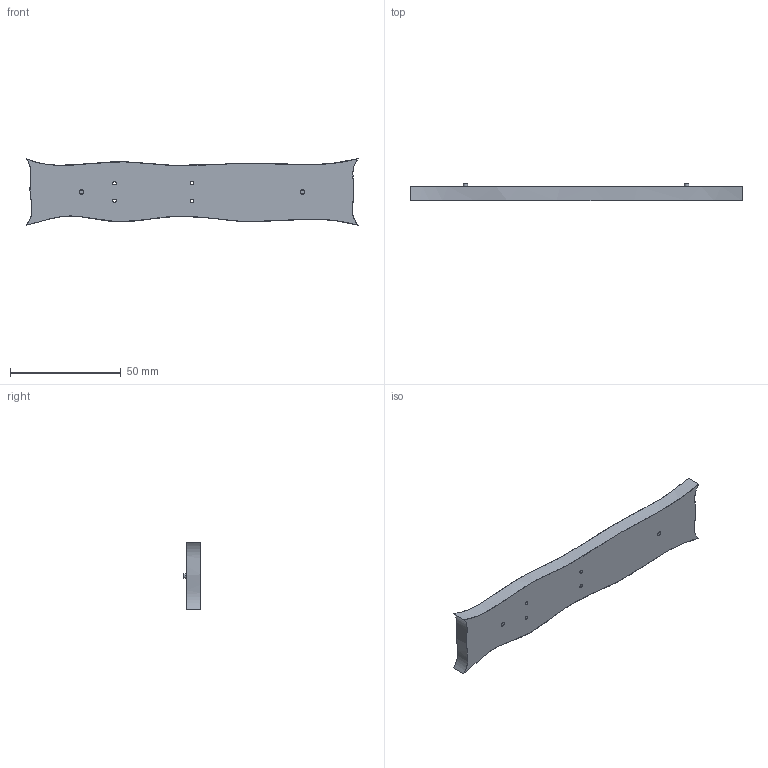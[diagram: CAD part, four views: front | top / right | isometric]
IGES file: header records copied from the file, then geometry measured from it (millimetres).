
Start section: SolidWorks IGES file using analytic representation for surfaces
Global section: file name: C:\Users\Nate.Gardner\Documents\Mounting Pattern for Probes\FP-NS-180 Mounting Pattern.IGS; native system: SolidWorks 2023; preprocessor: SolidWorks 2023; author: Nate.Gardner; date: 250729.134704; units: inch
Bounding box: 150 x 8 x 30 mm (x, y, z)
Surface area: 9847.2 mm2 (no closed solid volume)
Topology: 0 solids, 0 shells, 34 faces, 838 edges, 838 vertices
Faces by surface type: revolution 24, bspline 10
